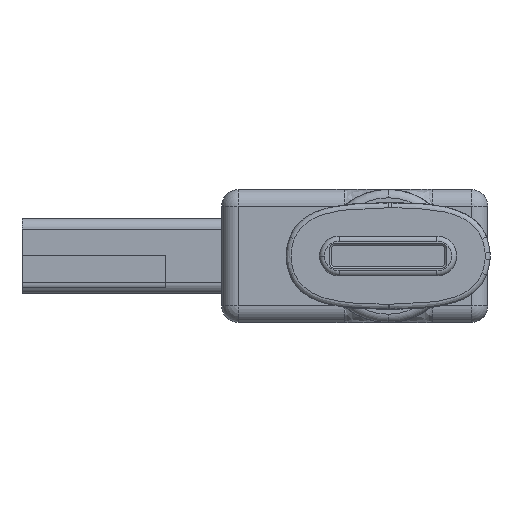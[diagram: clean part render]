
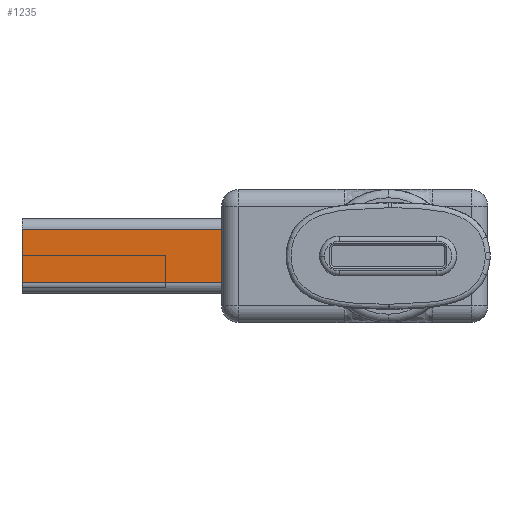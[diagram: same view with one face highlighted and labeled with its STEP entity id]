
A CAD part, front view. The second image highlights one B-rep face of the part: STEP entity #1235.
In plain terms, the highlighted planar face has unit normal (0, -1, 0).
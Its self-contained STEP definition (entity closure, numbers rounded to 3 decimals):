
#117 = CARTESIAN_POINT ( 'NONE',  ( -22., -6., -1.61 ) ) ;
#664 = CARTESIAN_POINT ( 'NONE',  ( -10., -6., 4. ) ) ;
#676 = LINE ( 'NONE', #1746, #7964 ) ;
#932 = ORIENTED_EDGE ( 'NONE', *, *, #10121, .F. ) ;
#1235 = ADVANCED_FACE ( 'NONE', ( #10779 ), #6275, .T. ) ;
#1746 = CARTESIAN_POINT ( 'NONE',  ( -14.446, -6., 1.61 ) ) ;
#1782 = VECTOR ( 'NONE', #12267, 1000. ) ;
#1798 = AXIS2_PLACEMENT_3D ( 'NONE', #6562, #9771, #4201 ) ;
#2755 = VERTEX_POINT ( 'NONE', #12777 ) ;
#2821 = LINE ( 'NONE', #664, #4725 ) ;
#3224 = ORIENTED_EDGE ( 'NONE', *, *, #9948, .T. ) ;
#3486 = CARTESIAN_POINT ( 'NONE',  ( -22., -6., -1.61 ) ) ;
#3595 = EDGE_LOOP ( 'NONE', ( #10372, #932, #4058, #3224 ) ) ;
#3819 = DIRECTION ( 'NONE',  ( 0., 0., -1. ) ) ;
#4058 = ORIENTED_EDGE ( 'NONE', *, *, #13047, .F. ) ;
#4201 = DIRECTION ( 'NONE',  ( 0., 0., -1. ) ) ;
#4725 = VECTOR ( 'NONE', #3819, 1000. ) ;
#6275 = PLANE ( 'NONE',  #1798 ) ;
#6562 = CARTESIAN_POINT ( 'NONE',  ( -22., -6., 2.25 ) ) ;
#7139 = DIRECTION ( 'NONE',  ( 1., 0., 0. ) ) ;
#7697 = VECTOR ( 'NONE', #8621, 1000. ) ;
#7964 = VECTOR ( 'NONE', #7139, 1000. ) ;
#8000 = VERTEX_POINT ( 'NONE', #117 ) ;
#8091 = CARTESIAN_POINT ( 'NONE',  ( -10., -6., -1.61 ) ) ;
#8621 = DIRECTION ( 'NONE',  ( 0., 0., 1. ) ) ;
#9524 = CARTESIAN_POINT ( 'NONE',  ( -22., -6., 1.61 ) ) ;
#9688 = LINE ( 'NONE', #14040, #7697 ) ;
#9771 = DIRECTION ( 'NONE',  ( 0., -1., 0. ) ) ;
#9948 = EDGE_CURVE ( 'NONE', #8000, #12099, #13547, .T. ) ;
#10121 = EDGE_CURVE ( 'NONE', #10772, #2755, #676, .T. ) ;
#10372 = ORIENTED_EDGE ( 'NONE', *, *, #12894, .F. ) ;
#10772 = VERTEX_POINT ( 'NONE', #9524 ) ;
#10779 = FACE_OUTER_BOUND ( 'NONE', #3595, .T. ) ;
#12099 = VERTEX_POINT ( 'NONE', #8091 ) ;
#12267 = DIRECTION ( 'NONE',  ( 1., 0., 0. ) ) ;
#12777 = CARTESIAN_POINT ( 'NONE',  ( -10., -6., 1.61 ) ) ;
#12894 = EDGE_CURVE ( 'NONE', #2755, #12099, #2821, .T. ) ;
#13047 = EDGE_CURVE ( 'NONE', #8000, #10772, #9688, .T. ) ;
#13547 = LINE ( 'NONE', #3486, #1782 ) ;
#14040 = CARTESIAN_POINT ( 'NONE',  ( -22., -6., 2.25 ) ) ;
